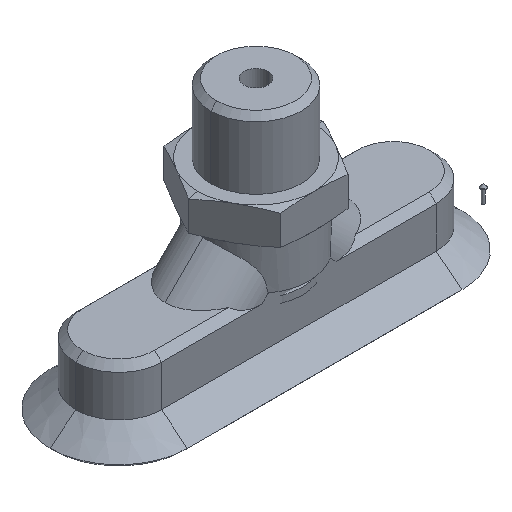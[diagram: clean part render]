
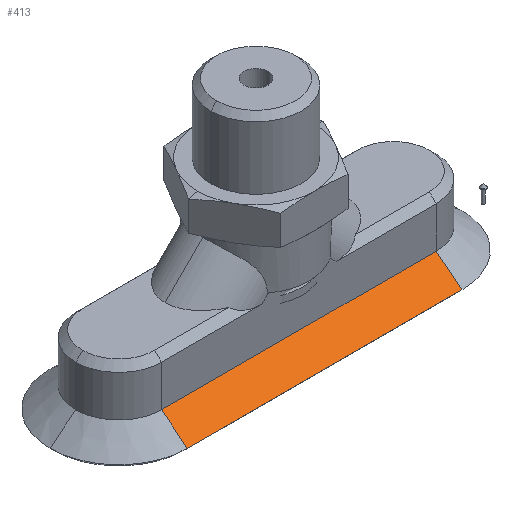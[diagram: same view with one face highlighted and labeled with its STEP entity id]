
A CAD part, isometric view. The second image highlights one B-rep face of the part: STEP entity #413.
In plain terms, the highlighted planar face has unit normal (0, -0.625, 0.781).
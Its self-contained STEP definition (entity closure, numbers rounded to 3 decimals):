
#413=ADVANCED_FACE('',(#796),#797,.T.);
#796=FACE_OUTER_BOUND('',#1162,.T.);
#797=PLANE('',#1163);
#1162=EDGE_LOOP('',(#1966,#1967,#1968,#1969));
#1163=AXIS2_PLACEMENT_3D('',#1970,#1971,#1972);
#1966=ORIENTED_EDGE('',*,*,#2372,.T.);
#1967=ORIENTED_EDGE('',*,*,#2226,.T.);
#1968=ORIENTED_EDGE('',*,*,#2234,.F.);
#1969=ORIENTED_EDGE('',*,*,#2257,.F.);
#1970=CARTESIAN_POINT('',(20.0,-6.25,-22.5));
#1971=DIRECTION('',(0.0,-0.625,0.781));
#1972=DIRECTION('',(-1.0,0.0,0.0));
#2226=EDGE_CURVE('',#2617,#2615,#2618,.T.);
#2234=EDGE_CURVE('',#2629,#2615,#2631,.T.);
#2257=EDGE_CURVE('',#2667,#2629,#2669,.T.);
#2372=EDGE_CURVE('',#2667,#2617,#2827,.T.);
#2615=VERTEX_POINT('',#3321);
#2617=VERTEX_POINT('',#3324);
#2618=LINE('',#3325,#3326);
#2629=VERTEX_POINT('',#3341);
#2631=LINE('',#3343,#3344);
#2667=VERTEX_POINT('',#3417);
#2669=LINE('',#3420,#3421);
#2827=LINE('',#3751,#3752);
#3321=CARTESIAN_POINT('',(-20.,-6.25,-22.5));
#3324=CARTESIAN_POINT('',(20.0,-6.25,-22.5));
#3325=CARTESIAN_POINT('',(20.0,-6.25,-22.5));
#3326=VECTOR('',#3965,1.0);
#3341=CARTESIAN_POINT('',(-20.,-10.,-25.5));
#3343=CARTESIAN_POINT('',(-20.,-8.125,-24.0));
#3344=VECTOR('',#3976,1.0);
#3417=CARTESIAN_POINT('',(20.0,-10.,-25.5));
#3420=CARTESIAN_POINT('',(20.0,-10.,-25.5));
#3421=VECTOR('',#4003,1.0);
#3751=CARTESIAN_POINT('',(20.0,-6.25,-22.5));
#3752=VECTOR('',#4127,1.0);
#3965=DIRECTION('',(-1.0,0.0,0.0));
#3976=DIRECTION('',(0.,0.781,0.625));
#4003=DIRECTION('',(-1.0,0.0,0.0));
#4127=DIRECTION('',(0.0,0.781,0.625));
